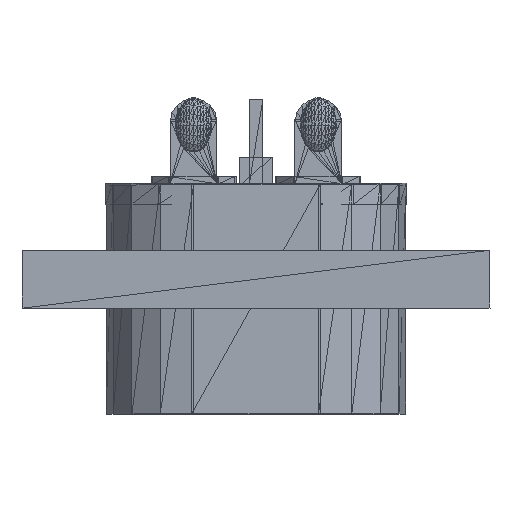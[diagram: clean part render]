
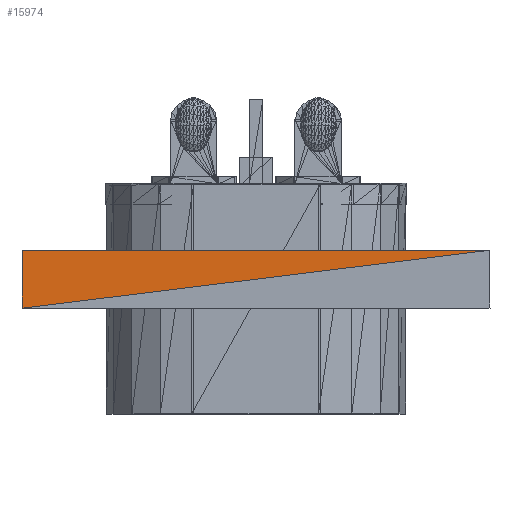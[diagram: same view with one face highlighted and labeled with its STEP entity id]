
A CAD part, top view. The second image highlights one B-rep face of the part: STEP entity #15974.
In plain terms, the highlighted planar face has unit normal (0, 0, 1).
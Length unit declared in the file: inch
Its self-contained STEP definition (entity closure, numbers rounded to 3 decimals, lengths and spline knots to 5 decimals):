
#15879=CARTESIAN_POINT('',(-0.6375,0.00112,0.7875));
#15880=VERTEX_POINT('',#15879);
#15889=CARTESIAN_POINT('',(0.63747,0.15888,0.7875));
#15890=VERTEX_POINT('',#15889);
#15897=CARTESIAN_POINT('',(-0.6375,0.00112,0.7875));
#15898=DIRECTION('',(0.992,0.123,0.));
#15899=VECTOR('',#15898,1.28469);
#15900=LINE('',#15897,#15899);
#15901=EDGE_CURVE('',#15880,#15890,#15900,.T.);
#15952=CARTESIAN_POINT('',(-0.6375,0.00112,0.7875));
#15953=DIRECTION('',(0.,0.,1.));
#15954=DIRECTION('',(1.,0.,0.));
#15955=AXIS2_PLACEMENT_3D('',#15952,#15953,#15954);
#15956=PLANE('',#15955);
#15957=ORIENTED_EDGE('',*,*,#15901,.T.);
#15958=CARTESIAN_POINT('',(-0.63753,0.15862,0.7875));
#15959=VERTEX_POINT('',#15958);
#15960=CARTESIAN_POINT('',(-0.63753,0.15862,0.7875));
#15961=DIRECTION('',(1.,0.,0.));
#15962=VECTOR('',#15961,1.275);
#15963=LINE('',#15960,#15962);
#15964=EDGE_CURVE('',#15959,#15890,#15963,.T.);
#15965=ORIENTED_EDGE('',*,*,#15964,.F.);
#15966=CARTESIAN_POINT('',(-0.63753,0.15862,0.7875));
#15967=DIRECTION('',(0.,-1.,0.));
#15968=VECTOR('',#15967,0.1575);
#15969=LINE('',#15966,#15968);
#15970=EDGE_CURVE('',#15959,#15880,#15969,.T.);
#15971=ORIENTED_EDGE('',*,*,#15970,.T.);
#15972=EDGE_LOOP('',(#15957,#15965,#15971));
#15973=FACE_BOUND('',#15972,.T.);
#15974=ADVANCED_FACE('',(#15973),#15956,.T.);
